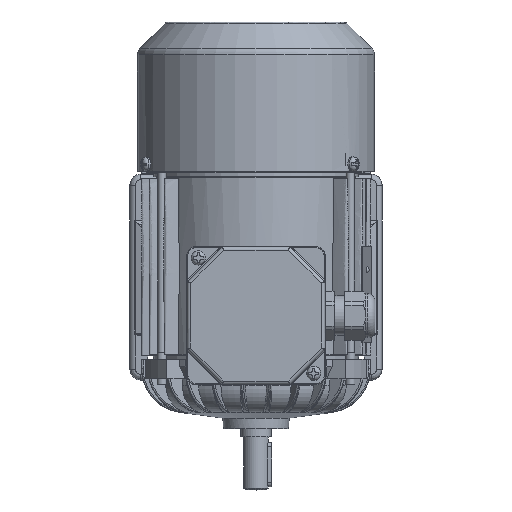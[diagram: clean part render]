
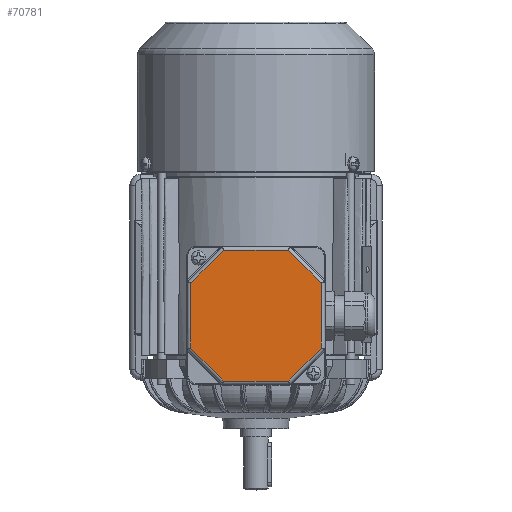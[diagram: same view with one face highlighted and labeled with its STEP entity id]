
A CAD part, top view. The second image highlights one B-rep face of the part: STEP entity #70781.
In plain terms, the highlighted planar face has unit normal (0, 0, 1).
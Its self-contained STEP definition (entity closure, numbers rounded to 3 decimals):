
#11887=ORIENTED_EDGE('',*,*,#24931,.T.);
#11888=ORIENTED_EDGE('',*,*,#24888,.T.);
#11889=ORIENTED_EDGE('',*,*,#24932,.T.);
#11890=ORIENTED_EDGE('',*,*,#24892,.T.);
#11891=ORIENTED_EDGE('',*,*,#24933,.T.);
#11892=ORIENTED_EDGE('',*,*,#24884,.T.);
#11893=ORIENTED_EDGE('',*,*,#24934,.T.);
#11894=ORIENTED_EDGE('',*,*,#24882,.T.);
#24882=EDGE_CURVE('',#31822,#31821,#36475,.T.);
#24884=EDGE_CURVE('',#31823,#31824,#36476,.T.);
#24888=EDGE_CURVE('',#31827,#31828,#36478,.T.);
#24892=EDGE_CURVE('',#31831,#31832,#36480,.T.);
#24931=EDGE_CURVE('',#31821,#31827,#36497,.F.);
#24932=EDGE_CURVE('',#31828,#31831,#36498,.F.);
#24933=EDGE_CURVE('',#31832,#31823,#36499,.F.);
#24934=EDGE_CURVE('',#31824,#31822,#36500,.F.);
#31821=VERTEX_POINT('',#100017);
#31822=VERTEX_POINT('',#100019);
#31823=VERTEX_POINT('',#100023);
#31824=VERTEX_POINT('',#100024);
#31827=VERTEX_POINT('',#100032);
#31828=VERTEX_POINT('',#100033);
#31831=VERTEX_POINT('',#100041);
#31832=VERTEX_POINT('',#100042);
#36475=LINE('',#100018,#39550);
#36476=LINE('',#100022,#39551);
#36478=LINE('',#100031,#39553);
#36480=LINE('',#100040,#39555);
#36497=LINE('',#100217,#39572);
#36498=LINE('',#100218,#39573);
#36499=LINE('',#100219,#39574);
#36500=LINE('',#100220,#39575);
#39550=VECTOR('',#82380,1000.);
#39551=VECTOR('',#82385,1000.);
#39553=VECTOR('',#82393,1000.);
#39555=VECTOR('',#82401,1000.);
#39572=VECTOR('',#82478,1000.);
#39573=VECTOR('',#82479,1000.);
#39574=VECTOR('',#82480,1000.);
#39575=VECTOR('',#82481,1000.);
#42392=EDGE_LOOP('',(#11887,#11888,#11889,#11890,#11891,#11892,#11893,#11894));
#45731=FACE_BOUND('',#42392,.T.);
#48373=PLANE('',#74516);
#70781=ADVANCED_FACE('',(#45731),#48373,.T.);
#74516=AXIS2_PLACEMENT_3D('',#100216,#82476,#82477);
#82380=DIRECTION('',(0.707,0.707,0.));
#82385=DIRECTION('',(0.707,-0.707,0.));
#82393=DIRECTION('',(-0.707,0.707,0.));
#82401=DIRECTION('',(-0.707,-0.707,0.));
#82476=DIRECTION('',(0.,0.,1.));
#82477=DIRECTION('',(1.,0.,0.));
#82478=DIRECTION('',(0.,-1.,0.));
#82479=DIRECTION('',(1.,0.,0.));
#82480=DIRECTION('',(0.,1.,0.));
#82481=DIRECTION('',(-1.,0.,0.));
#100017=CARTESIAN_POINT('',(36.825,8.745,110.5));
#100018=CARTESIAN_POINT('',(37.401,9.321,110.5));
#100019=CARTESIAN_POINT('',(18.255,-9.825,110.5));
#100022=CARTESIAN_POINT('',(-17.679,-10.401,110.5));
#100023=CARTESIAN_POINT('',(-36.825,8.745,110.5));
#100024=CARTESIAN_POINT('',(-18.255,-9.825,110.5));
#100031=CARTESIAN_POINT('',(17.679,64.401,110.5));
#100032=CARTESIAN_POINT('',(36.825,45.255,110.5));
#100033=CARTESIAN_POINT('',(18.255,63.825,110.5));
#100040=CARTESIAN_POINT('',(-37.401,44.679,110.5));
#100041=CARTESIAN_POINT('',(-18.255,63.825,110.5));
#100042=CARTESIAN_POINT('',(-36.825,45.255,110.5));
#100216=CARTESIAN_POINT('',(-39.,66.,110.5));
#100217=CARTESIAN_POINT('',(36.825,46.069,110.5));
#100218=CARTESIAN_POINT('',(-19.069,63.825,110.5));
#100219=CARTESIAN_POINT('',(-36.825,7.931,110.5));
#100220=CARTESIAN_POINT('',(19.069,-9.825,110.5));
